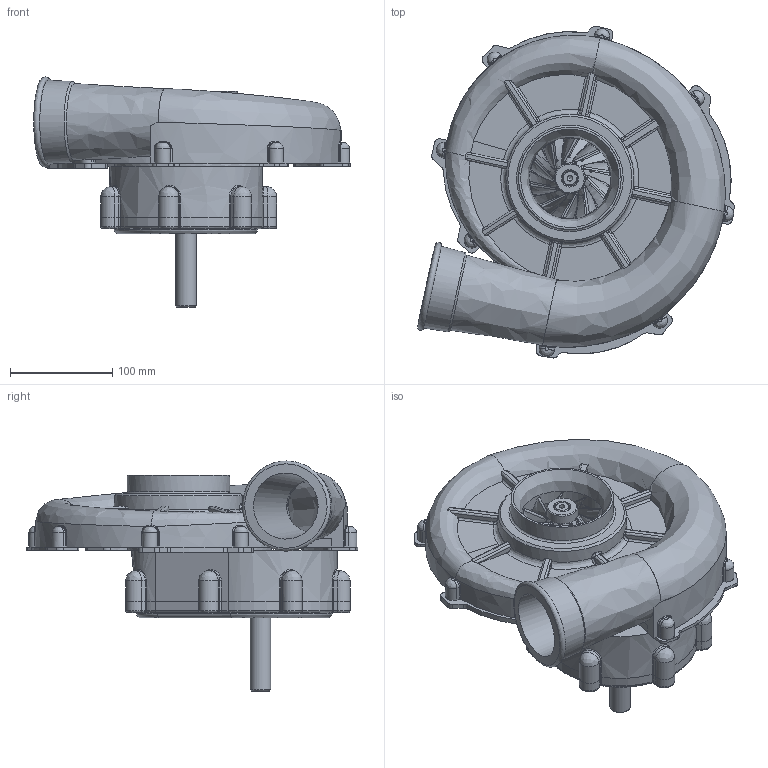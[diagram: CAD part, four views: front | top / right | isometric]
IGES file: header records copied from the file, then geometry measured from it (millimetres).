
Global section: file name: Assembly1; native system: Autodesk Inventor 2016; preprocessor: unknown; author: Uglješa,; organization: 11; date: 20150819.144529; units: millimetre
Bounding box: 308.89 x 323.98 x 224.44 mm (x, y, z)
Volume: 2773162.9 mm3; surface area: 763367 mm2
Topology: 23 solids, 23 shells, 1626 faces, 4324 edges, 2699 vertices
Faces by surface type: bspline 1626
